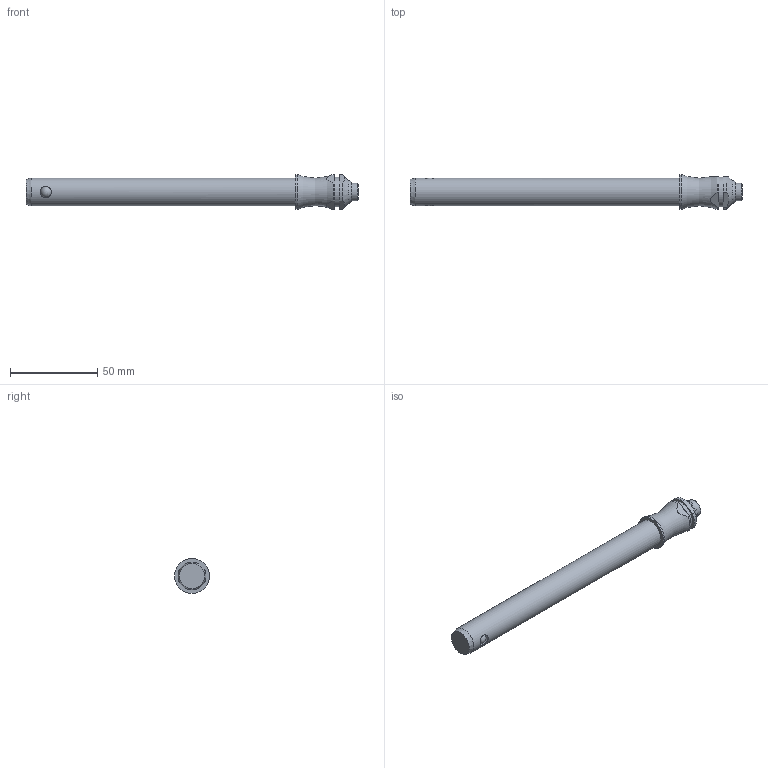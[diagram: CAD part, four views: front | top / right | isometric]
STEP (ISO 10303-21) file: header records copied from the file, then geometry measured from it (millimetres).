
FILE_DESCRIPTION( ( 'STEP AP203' ), '1' );
FILE_NAME( 'C:/Temp/Ganter_Step_05_03_2020/data/3_1/gn113_3/Stainless Steel-Ball lock pin GN 113.3-16-140 (activated).stp', '2020-03-12T08:19:00', ( 'License CC BY-ND 4.0' ), ( 'CADENAS' ), ' ', 'PARTsolutions', ' ' );
FILE_SCHEMA( ( 'CONFIG_CONTROL_DESIGN' ) );
Length unit declared in the file: millimetre
Products named in the file (1): _Stainless Steel-Ball lock pin GN 113.3-16-140 (activated)
Bounding box: 189.75 x 20 x 20 mm (x, y, z)
Volume: 38512 mm3; surface area: 10347.6 mm2
Topology: 1 solids, 1 shells, 30 faces, 68 edges, 43 vertices
Faces by surface type: cylinder 12, plane 11, cone 3, torus 2, sphere 2
Full cylindrical faces by diameter (mm): 6.5 x2, 10 x1, 16 x1, 17 x1, 20 x1
Entity records: 1014 total; most frequent: CARTESIAN_POINT 364, DIRECTION 130, ORIENTED_EDGE 102, AXIS2_PLACEMENT_3D 56, EDGE_CURVE 51, EDGE_LOOP 46, VERTEX_POINT 40, FACE_OUTER_BOUND 38
